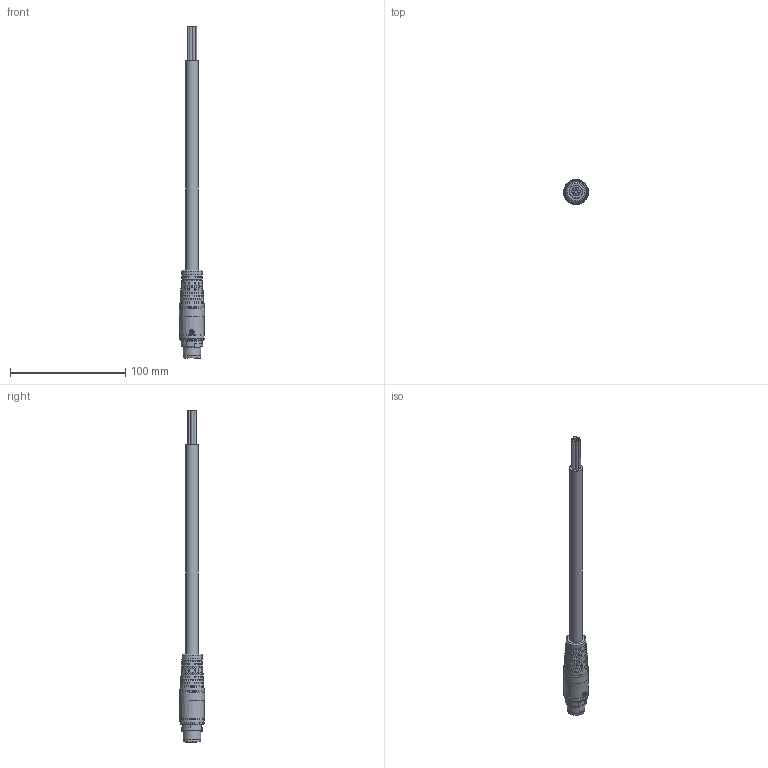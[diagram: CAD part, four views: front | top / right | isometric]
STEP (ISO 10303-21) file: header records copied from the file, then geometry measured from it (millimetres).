
FILE_DESCRIPTION (( 'STEP AP203' ), '1' );
FILE_NAME ('1138015_W-TEC_15K_STI_GLATT_STEP.STEP', '2023-09-05T08:56:23', ( '' ), ( '' ), 'SwSTEP 2.0', 'SolidWorks 2021', '' );
FILE_SCHEMA (( 'CONFIG_CONTROL_DESIGN' ));
Length unit declared in the file: millimetre
Products named in the file (1): 1138015_W-TEC_15K_STI_GLATT_STEP
Bounding box: 21.7 x 21.82 x 287.67 mm (x, y, z)
Surface area: 14522.1 mm2 (no closed solid volume)
Topology: 0 solids, 11 shells, 480 faces, 1705 edges, 1133 vertices
Faces by surface type: bspline 170, plane 138, cylinder 128, cone 26, torus 16, sphere 2
Full cylindrical faces by diameter (mm): 1.6 x3, 2.5 x5, 4 x1, 4.4 x3, 11.1 x1, 15.2 x1, 15.4 x1, 17.384 x1, 21.24 x1, 21.72 x1
Entity records: 25001 total; most frequent: CARTESIAN_POINT 13198, ORIENTED_EDGE 2610, DIRECTION 1798, EDGE_CURVE 1596, VERTEX_POINT 1110, B_SPLINE_CURVE_WITH_KNOTS 706, AXIS2_PLACEMENT_3D 654, EDGE_LOOP 553
